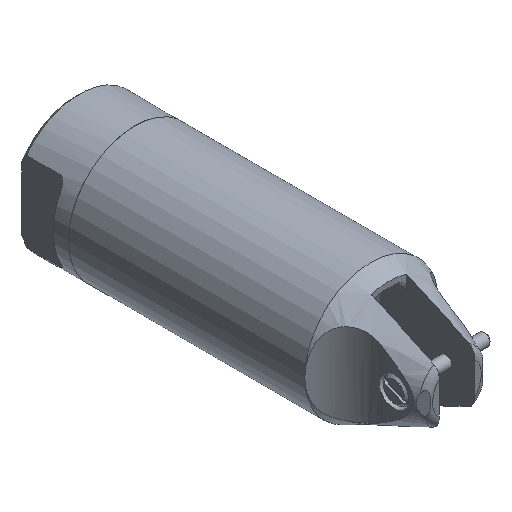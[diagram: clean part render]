
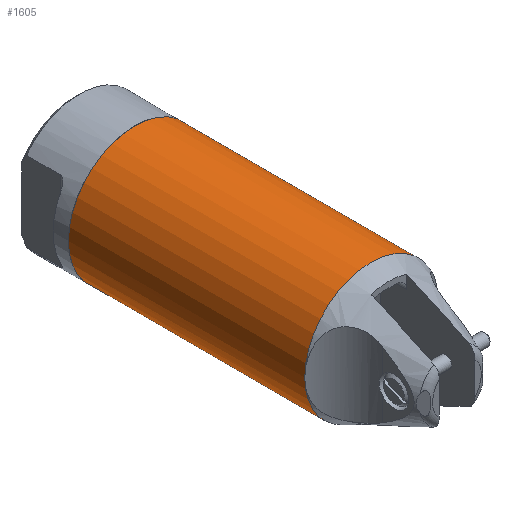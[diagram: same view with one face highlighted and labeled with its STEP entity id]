
A CAD part, isometric view. The second image highlights one B-rep face of the part: STEP entity #1605.
In plain terms, the highlighted cylindrical face has radius 22.5 mm (diameter 45 mm), a full revolution.
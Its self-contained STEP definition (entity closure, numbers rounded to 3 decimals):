
#308=CYLINDRICAL_SURFACE('',#1839,22.5);
#343=FACE_BOUND('',#557,.T.);
#425=FACE_OUTER_BOUND('',#556,.T.);
#556=EDGE_LOOP('',(#1283));
#557=EDGE_LOOP('',(#1284,#1285));
#690=CIRCLE('',#1778,22.5);
#711=CIRCLE('',#1820,22.5);
#712=CIRCLE('',#1821,22.5);
#783=VERTEX_POINT('',#2515);
#825=VERTEX_POINT('',#2687);
#826=VERTEX_POINT('',#2688);
#936=EDGE_CURVE('',#783,#783,#690,.T.);
#989=EDGE_CURVE('',#825,#826,#711,.T.);
#992=EDGE_CURVE('',#826,#825,#712,.T.);
#1283=ORIENTED_EDGE('',*,*,#936,.T.);
#1284=ORIENTED_EDGE('',*,*,#989,.F.);
#1285=ORIENTED_EDGE('',*,*,#992,.F.);
#1605=ADVANCED_FACE('',(#425,#343),#308,.T.);
#1778=AXIS2_PLACEMENT_3D('',#2516,#2009,#2010);
#1820=AXIS2_PLACEMENT_3D('',#2689,#2115,#2116);
#1821=AXIS2_PLACEMENT_3D('',#2726,#2117,#2118);
#1839=AXIS2_PLACEMENT_3D('',#2858,#2154,#2155);
#2009=DIRECTION('center_axis',(0.,1.,0.));
#2010=DIRECTION('ref_axis',(1.,0.,0.));
#2115=DIRECTION('center_axis',(0.,1.,0.));
#2116=DIRECTION('ref_axis',(1.,0.,0.));
#2117=DIRECTION('center_axis',(0.,1.,0.));
#2118=DIRECTION('ref_axis',(1.,0.,0.));
#2154=DIRECTION('center_axis',(0.,1.,0.));
#2155=DIRECTION('ref_axis',(-1.,0.,0.));
#2515=CARTESIAN_POINT('',(-22.5,0.,0.));
#2516=CARTESIAN_POINT('Origin',(0.,0.,0.));
#2687=CARTESIAN_POINT('',(0.,80.,22.5));
#2688=CARTESIAN_POINT('',(0.,80.,-22.5));
#2689=CARTESIAN_POINT('Origin',(0.,80.,0.));
#2726=CARTESIAN_POINT('Origin',(0.,80.,0.));
#2858=CARTESIAN_POINT('Origin',(0.,40.,0.));
